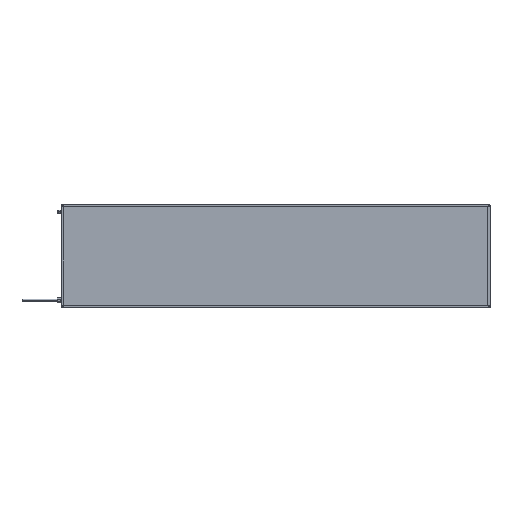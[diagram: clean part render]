
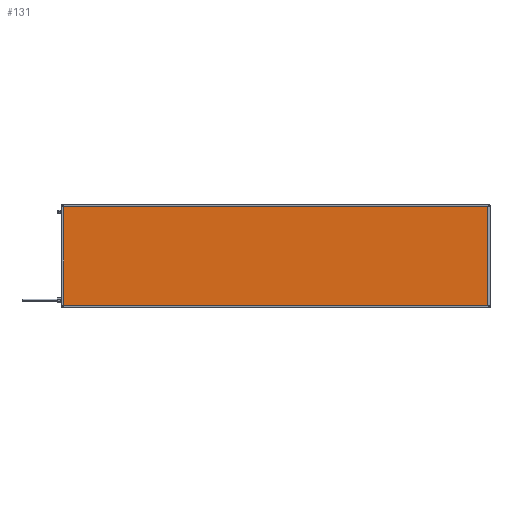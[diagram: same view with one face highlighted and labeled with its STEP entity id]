
A CAD part, top view. The second image highlights one B-rep face of the part: STEP entity #131.
In plain terms, the highlighted planar face has unit normal (0, 0, 1).
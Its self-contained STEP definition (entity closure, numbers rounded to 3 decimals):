
#103 = CARTESIAN_POINT ( 'NONE',  ( 0., 0., 41.85 ) ) ;
#131 = ADVANCED_FACE ( 'NONE', ( #8234 ), #1294, .F. ) ;
#148 = EDGE_CURVE ( 'NONE', #6254, #13928, #12687, .T. ) ;
#547 = VECTOR ( 'NONE', #15002, 1000. ) ;
#1274 = DIRECTION ( 'NONE',  ( 0., -1., 0. ) ) ;
#1294 = PLANE ( 'NONE',  #14751 ) ;
#1347 = EDGE_LOOP ( 'NONE', ( #12280, #11291, #10298, #5092 ) ) ;
#3053 = DIRECTION ( 'NONE',  ( -1., 0., 0. ) ) ;
#4610 = EDGE_CURVE ( 'NONE', #9860, #14426, #6063, .T. ) ;
#4764 = CARTESIAN_POINT ( 'NONE',  ( 1696., 396., 41.85 ) ) ;
#5092 = ORIENTED_EDGE ( 'NONE', *, *, #148, .T. ) ;
#5387 = CARTESIAN_POINT ( 'NONE',  ( 4., 0., 41.85 ) ) ;
#6063 = LINE ( 'NONE', #11625, #6936 ) ;
#6254 = VERTEX_POINT ( 'NONE', #10251 ) ;
#6865 = CARTESIAN_POINT ( 'NONE',  ( 0., 4., 41.85 ) ) ;
#6936 = VECTOR ( 'NONE', #3053, 1000. ) ;
#8234 = FACE_OUTER_BOUND ( 'NONE', #1347, .T. ) ;
#8494 = DIRECTION ( 'NONE',  ( -1., 0., 0. ) ) ;
#8631 = EDGE_CURVE ( 'NONE', #13928, #9860, #9615, .T. ) ;
#9615 = LINE ( 'NONE', #15182, #547 ) ;
#9860 = VERTEX_POINT ( 'NONE', #4764 ) ;
#10251 = CARTESIAN_POINT ( 'NONE',  ( 4., 4., 41.85 ) ) ;
#10298 = ORIENTED_EDGE ( 'NONE', *, *, #11257, .T. ) ;
#10955 = LINE ( 'NONE', #5387, #16635 ) ;
#11257 = EDGE_CURVE ( 'NONE', #14426, #6254, #10955, .T. ) ;
#11291 = ORIENTED_EDGE ( 'NONE', *, *, #4610, .T. ) ;
#11625 = CARTESIAN_POINT ( 'NONE',  ( 0., 396., 41.85 ) ) ;
#12280 = ORIENTED_EDGE ( 'NONE', *, *, #8631, .T. ) ;
#12420 = DIRECTION ( 'NONE',  ( 1., 0., 0. ) ) ;
#12687 = LINE ( 'NONE', #6865, #13876 ) ;
#13385 = CARTESIAN_POINT ( 'NONE',  ( 4., 396., 41.85 ) ) ;
#13876 = VECTOR ( 'NONE', #12420, 1000. ) ;
#13928 = VERTEX_POINT ( 'NONE', #17513 ) ;
#14426 = VERTEX_POINT ( 'NONE', #13385 ) ;
#14751 = AXIS2_PLACEMENT_3D ( 'NONE', #103, #16796, #8494 ) ;
#15002 = DIRECTION ( 'NONE',  ( 0., 1., 0. ) ) ;
#15182 = CARTESIAN_POINT ( 'NONE',  ( 1696., 0., 41.85 ) ) ;
#16635 = VECTOR ( 'NONE', #1274, 1000. ) ;
#16796 = DIRECTION ( 'NONE',  ( 0., 0., -1. ) ) ;
#17513 = CARTESIAN_POINT ( 'NONE',  ( 1696., 4., 41.85 ) ) ;
